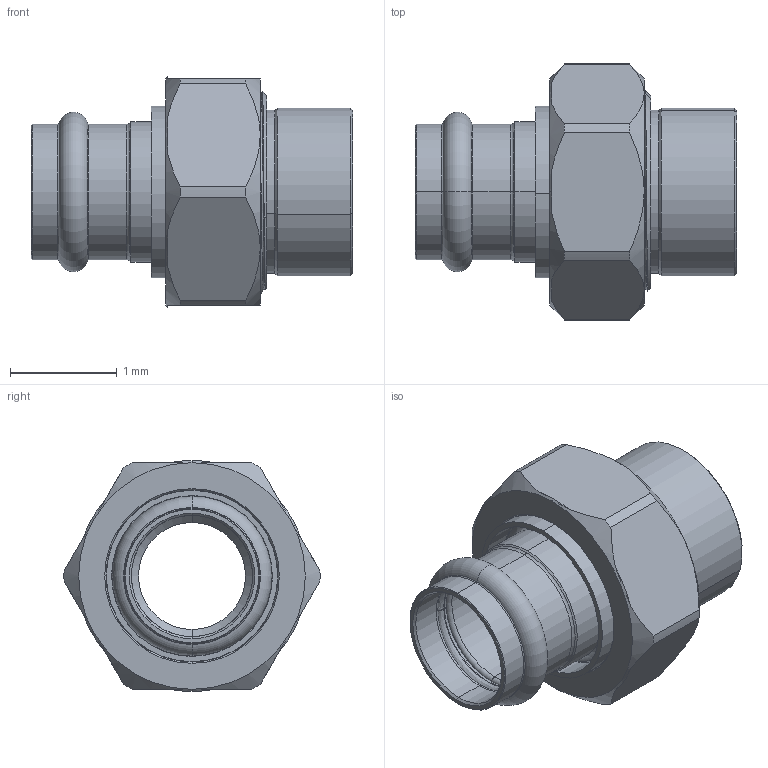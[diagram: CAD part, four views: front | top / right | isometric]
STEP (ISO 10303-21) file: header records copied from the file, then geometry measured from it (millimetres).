
FILE_DESCRIPTION(('Open CASCADE Model'),'2;1');
FILE_NAME('Open CASCADE Shape Model','2022-06-28T09:13:52',('Author'),( 'Open CASCADE'),'Open CASCADE STEP processor 7.3','Open CASCADE 7.3' ,'Unknown');
FILE_SCHEMA(('AUTOMOTIVE_DESIGN { 1 0 10303 214 1 1 1 1 }'));
Length unit declared in the file: millimetre
Products named in the file (7): Open CASCADE STEP translator 7.3 1; Open CASCADE STEP translator 7.3 1.1; Open CASCADE STEP translator 7.3 1.2; Open CASCADE STEP translator 7.3 1.3; Open CASCADE STEP translator 7.3 1.4; Open CASCADE STEP translator 7.3 1.5; Open CASCADE STEP translator 7.3 1.6
Assembly tree (6 placements, depth 2):
  Open CASCADE STEP translator 7.3 1
    Open CASCADE STEP translator 7.3 1.1
    Open CASCADE STEP translator 7.3 1.2
    Open CASCADE STEP translator 7.3 1.3
    Open CASCADE STEP translator 7.3 1.4
    Open CASCADE STEP translator 7.3 1.5
    Open CASCADE STEP translator 7.3 1.6
Bounding box: 3.01 x 2.4 x 2.17 mm (x, y, z)
Volume: 3.6 mm3; surface area: 64.3 mm2
Topology: 6 solids, 6 shells, 206 faces, 492 edges, 304 vertices
Faces by surface type: cylinder 74, cone 69, plane 32, torus 16, bspline 15
Entity records: 37919 total; most frequent: CARTESIAN_POINT 28647, DIRECTION 1545, ORIENTED_EDGE 984, PCURVE 984, DEFINITIONAL_REPRESENTATION 984, LINE 726, VECTOR 726, EDGE_CURVE 492
